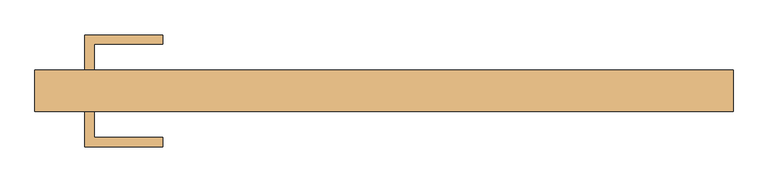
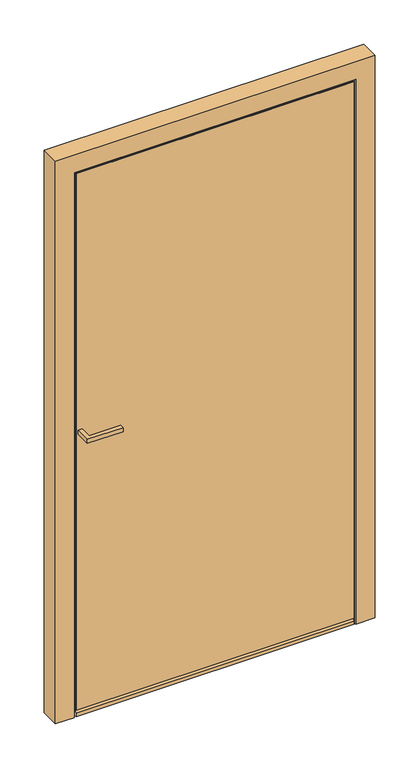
"""IFC4 building model written with IfcOpenShell, lengths in millimetres: door geometry, Reynaers_CS 77_Door_Panel_Outward Opening_Single Vent_Double Sided : Reynaers_CS 77_Door_Panel_Outward Opening_Single Vent_Double Sided."""

from ifc_helpers import new_model, si_unit, frame, origin, place, context, project, spatial, polyline, circle_curve, outline, extrude, faceted_brep, source, transform, mapped, element, save
from ifc_brep_helpers import plane_surface, cylinder_surface, revolved_surface, advanced_brep


def door_f76902fe(model_context):
    return source(origin(), model_context, "Body", "SolidModel", [
        extrude(outline(polyline([(-488.5, 80.0), (-488.5, 137.5), (-361.0, 137.5), (-361.0, 122.5), (-473.5, 122.5), (-473.5, 80.0), (-488.5, 80.0)])), frame((0.0, 0.0, 1062.5), z_axis=(0.0, 0.0, 1.0), x_axis=(1.0, 0.0, 0.0)), (0.0, 0.0, 1.0), 15.0),
        extrude(outline(polyline([(-488.5, 12.0), (-473.5, 12.0), (-473.5, -30.5), (-361.0, -30.5), (-361.0, -45.5), (-488.5, -45.5), (-488.5, 12.0)])), frame((0.0, 0.0, 1062.5), z_axis=(0.0, 0.0, 1.0), x_axis=(1.0, 0.0, 0.0)), (0.0, 0.0, 1.0), 15.0),
        extrude(outline(polyline([(496.0, 15.0), (496.0, 12.0), (-496.0, 12.0), (-496.0, 15.0), (496.0, 15.0)])), frame((0.0, 0.0, 24.4991379), z_axis=(0.0, 0.0, 1.0), x_axis=(1.0, 0.0, 0.0)), (0.0, 0.0, 1.0), 2021.5037602),
        extrude(outline(polyline([(522.0, 80.0), (522.0, 77.0), (-522.0, 77.0), (-522.0, 80.0), (522.0, 80.0)])), frame((0.0, 0.0, 10.5), z_axis=(0.0, 0.0, 1.0), x_axis=(1.0, 0.0, 0.0)), (0.0, 0.0, 1.0), 2061.5),
        extrude(outline(polyline([(440.0, 15.0), (-440.0, 15.0), (-440.0, 77.0), (440.0, 77.0), (440.0, 15.0)])), frame((0.0, 0.0, 92.5), z_axis=(0.0, 0.0, 1.0), x_axis=(1.0, 0.0, 0.0)), (0.0, 0.0, 1.0), 1897.5),
        faceted_brep([(445.0, 15.408272, 1995.0), (445.0, 77.0, 1995.0), (445.0, 77.0, 87.5), (445.0, 15.408272, 87.5), (522.0, 77.0, 2072.0), (522.0, 77.0, 10.5), (-522.0, 77.0, 10.5), (-522.0, 77.0, 2072.0), (-445.0, 77.0, 1995.0), (-445.0, 77.0, 87.5), (-445.0, 15.408272, 87.5), (-496.0, 15.408272, 2046.0), (-496.0, 15.408272, 36.5), (496.0, 15.408272, 36.5), (496.0, 15.408272, 2046.0), (-445.0, 15.408272, 1995.0), (496.0, 20.808272, 2046.0), (496.0, 20.808272, 36.5), (-496.0, 20.808272, 36.5), (-507.0, 20.808272, 2057.0), (-507.0, 20.808272, 25.5), (507.0, 20.808272, 25.5), (507.0, 20.808272, 2057.0), (-496.0, 20.808272, 2046.0), (-507.0, 71.2, 25.5), (-507.0, 71.2, 2057.0), (507.0, 71.2, 25.5), (507.0, 71.2, 2057.0), (-522.0, 71.2, 2072.0), (-522.0, 71.2, 10.5), (522.0, 71.2, 10.5), (522.0, 71.2, 2072.0)], [[[0, 1, 2, 3]], [[4, 5, 6, 7], [8, 9, 2, 1]], [[3, 2, 9, 10]], [[11, 12, 13, 14], [0, 3, 10, 15]], [[16, 14, 13, 17]], [[17, 13, 12, 18]], [[19, 20, 21, 22], [16, 17, 18, 23]], [[10, 9, 8, 15]], [[18, 12, 11, 23]], [[24, 20, 19, 25]], [[26, 21, 20, 24]], [[27, 22, 21, 26]], [[28, 29, 30, 31], [27, 26, 24, 25]], [[4, 31, 30, 5]], [[5, 30, 29, 6]], [[6, 29, 28, 7]], [[15, 8, 1, 0]], [[23, 11, 14, 16]], [[25, 19, 22, 27]], [[7, 28, 31, 4]]]),
        faceted_brep([(-528.0, 71.2, 0.0), (-517.0, 71.2, 0.0), (-517.0, 15.8, 0.0), (-502.0, 15.8, 0.0), (-502.0, 12.0, 0.0), (-570.0, 12.0, 0.0), (-570.0, 80.0, 0.0), (-528.0, 80.0, 0.0), (-528.0, 71.2, 2078.0), (528.0, 71.2, 2078.0), (528.0, 71.2, 0.0), (517.0, 71.2, 0.0), (517.0, 71.2, 2067.0), (-517.0, 71.2, 2067.0), (-517.0, 15.8, 2067.0), (517.0, 15.8, 2067.0), (517.0, 15.8, 0.0), (502.0, 15.8, 0.0), (502.0, 15.8, 2052.0), (-502.0, 15.8, 2052.0), (-502.0, 12.0, 2052.0), (502.0, 12.0, 2052.0), (502.0, 12.0, 0.0), (570.0, 12.0, 0.0), (570.0, 12.0, 2120.0), (-570.0, 12.0, 2120.0), (-570.0, 80.0, 2120.0), (570.0, 80.0, 2120.0), (570.0, 80.0, 0.0), (528.0, 80.0, 0.0), (528.0, 80.0, 2078.0), (-528.0, 80.0, 2078.0)], [[[0, 1, 2, 3, 4, 5, 6, 7]], [[1, 0, 8, 9, 10, 11, 12, 13]], [[2, 1, 13, 14]], [[3, 2, 14, 15, 16, 17, 18, 19]], [[4, 3, 19, 20]], [[5, 4, 20, 21, 22, 23, 24, 25]], [[6, 5, 25, 26]], [[7, 6, 26, 27, 28, 29, 30, 31]], [[0, 7, 31, 8]], [[9, 30, 29, 10]], [[10, 29, 28, 23, 22, 17, 16, 11]], [[15, 12, 11, 16]], [[27, 24, 23, 28]], [[21, 18, 17, 22]], [[26, 25, 24, 27]], [[8, 31, 30, 9]], [[14, 13, 12, 15]], [[20, 19, 18, 21]]]),
        advanced_brep(
        [(496.0, 31.6748288, 24.7), (-496.0, 31.6748288, 24.7), (-496.0, 25.0197902, 24.7), (496.0, 25.0197902, 24.7), (-496.0, 23.6826711, 23.9280139), (496.0, 23.6826711, 23.9280139), (-496.0, 22.3559969, 23.9280139), (496.0, 22.3559969, 23.9280139), (-496.0, 23.3746414, 17.259944), (496.0, 23.3746414, 17.259944), (-496.0, 28.1671148, 20.8033727), (496.0, 28.1671148, 20.8033727), (-496.0, 31.6748288, 23.5049578), (496.0, 31.6748288, 23.5049578)],
        [
            (0, 1),
            (1, 2),
            (2, 3),
            (3, 0),
            (2, 4),
            (4, 5),
            (5, 3),
            (4, 6),
            (6, 7),
            (7, 5),
            (6, 8, circle_curve(frame((-496.0, 22.5055379, 20.5338193), z_axis=(1.0, 0.0, 0.0), x_axis=(0.0, -1.0, 0.0)), 3.3872704)),
            (8, 9),
            (9, 7, circle_curve(frame((496.0, 22.5055379, 20.5338193), z_axis=(-1.0, 0.0, 0.0), x_axis=(0.0, -1.0, 0.0)), 3.3872704)),
            (8, 10, circle_curve(frame((-496.0, 20.8368427, 25.7049218), z_axis=(1.0, 0.0, 0.0), x_axis=(0.0, -1.0, 0.0)), 8.8180539)),
            (10, 11),
            (11, 9, circle_curve(frame((496.0, 20.8368427, 25.7049218), z_axis=(-1.0, 0.0, 0.0), x_axis=(0.0, -1.0, 0.0)), 8.8180539)),
            (10, 12, circle_curve(frame((-496.0, 36.4752058, 13.6442063), z_axis=(-1.0, 0.0, 0.0), x_axis=(0.0, -1.0, 0.0)), 10.9671344)),
            (12, 13),
            (13, 11, circle_curve(frame((496.0, 36.4752058, 13.6442063), z_axis=(1.0, 0.0, 0.0), x_axis=(0.0, -1.0, 0.0)), 10.9671344)),
            (0, 13),
            (12, 1),
        ],
        [
            plane_surface(frame((522.0, 31.6748288, 24.7), z_axis=(0.0, 0.0, 1.0), x_axis=(-1.0, 0.0, 0.0))),
            plane_surface(frame((522.0, 25.0197902, 24.7), z_axis=(0.0, -0.5000000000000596, 0.8660254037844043), x_axis=(-1.0, 0.0, 0.0))),
            plane_surface(frame((522.0, 23.6826711, 23.9280139), z_axis=(0.0, 0.0, 1.0), x_axis=(-1.0, 0.0, 0.0))),
            cylinder_surface(frame((522.0, 22.5055379, 20.5338193), z_axis=(1.0, 0.0, 0.0), x_axis=(0.0, -1.0, 0.0)), 3.3872704),
            cylinder_surface(frame((522.0, 20.8368427, 25.7049218), z_axis=(1.0, 0.0, 0.0), x_axis=(0.0, -1.0, 0.0)), 8.8180539),
            revolved_surface(polyline([(-496.0, 25.5080714, 13.6442063), (496.0, 25.5080714, 13.6442063)]), (522.0, 36.4752058, 13.6442063), (-1.0, 0.0, 0.0)),
            plane_surface(frame((522.0, 31.6748288, 23.5049578), z_axis=(0.0, 1.0, 0.0), x_axis=(-1.0, 0.0, 0.0))),
            plane_surface(frame((-496.0, -83.324421, 0.0), z_axis=(-1.0, 0.0, 0.0), x_axis=(0.0, 1.0, 0.0))),
            plane_surface(frame((496.0, -83.324421, 36.5), z_axis=(1.0, 0.0, 0.0), x_axis=(0.0, 1.0, 0.0))),
        ],
        [
            (0, [[1, 2, 3, 4]]),
            (1, [[-3, 5, 6, 7]]),
            (2, [[-6, 8, 9, 10]]),
            (3, [[-9, 11, 12, 13]]),
            (4, [[-12, 14, 15, 16]]),
            (5, [[-15, 17, 18, 19]]),
            (6, [[-1, 20, -18, 21]]),
            (7, [[-2, -21, -17, -14, -11, -8, -5]]),
            (8, [[-4, -7, -10, -13, -16, -19, -20]]),
        ],
    ),
        extrude(outline(polyline([(80.0, 1.9998842), (80.0, 1.0), (12.0, 1.0), (12.0, 13.6784228), (20.1581951, 19.3908525), (26.3598566, 12.0), (71.0, 12.0), (71.0, 2.4715542), (80.0, 1.9998842)])), frame((-496.0, 0.0, 0.0), z_axis=(1.0, 0.0, 0.0), x_axis=(0.0, 1.0, 0.0)), (0.0, 0.0, 1.0), 992.0),
    ])


if __name__ == "__main__":
    model = new_model("IFC4")
    model_context = context("Model", 3, world=origin())
    ifc_project = project(units=[si_unit("LENGTHUNIT", "METRE", prefix="MILLI")], contexts=[model_context])
    site = spatial("IfcSite", under=ifc_project)
    building = spatial("IfcBuilding", under=site)
    placement = place(None, origin())
    door_shape = door_f76902fe(model_context)
    element("IfcDoor", 1, ObjectType="Reynaers_CS 77_Door_Panel_Outward Opening_Single Vent_Double Sided : Reynaers_CS 77_Door_Panel_Outward Opening_Single Vent_Double Sided", at=placement, inside=building, context=model_context, shape_type="MappedRepresentation", body=[
        mapped(door_shape, transform((0.0, 0.0, 0.0), x_axis=(1.0, 0.0, 0.0), y_axis=(0.0, 1.0, 0.0), z_axis=(0.0, 0.0, 1.0))),
    ])
    save(model, "model.ifc")
